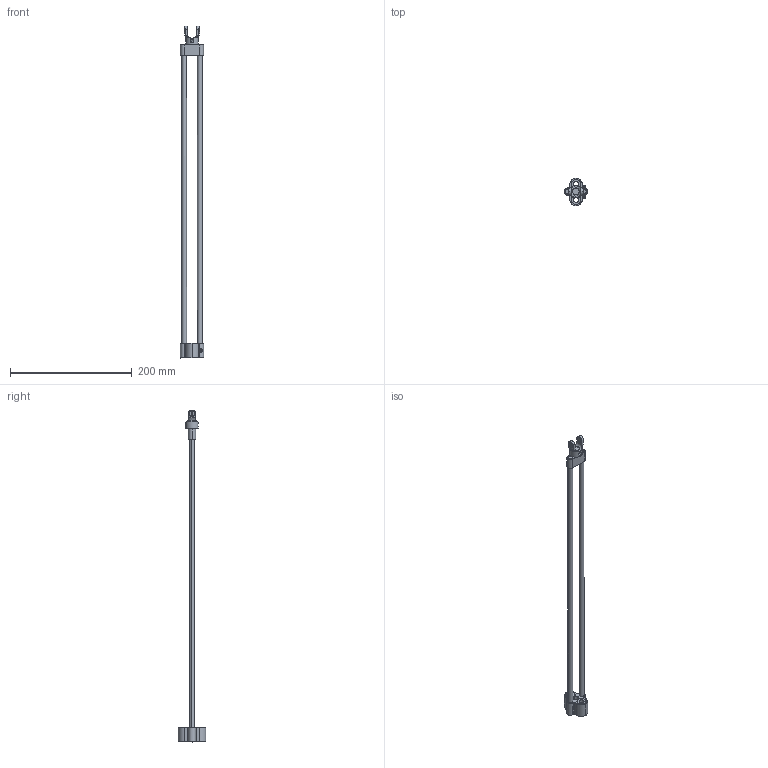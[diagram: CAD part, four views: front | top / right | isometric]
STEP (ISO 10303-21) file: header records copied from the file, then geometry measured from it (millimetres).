
FILE_DESCRIPTION (( 'STEP AP214' ), '1' );
FILE_NAME ('IRB360_X-1130-WDS-4D_rev03_MU_CAD.STEP', '2023-12-04T10:16:52', ( '' ), ( '' ), 'SwSTEP 2.0', 'SolidWorks 2022', '' );
FILE_SCHEMA (( 'AUTOMOTIVE_DESIGN' ));
Length unit declared in the file: millimetre
Products named in the file (1): IRB360_X-1130-WDS-4D_rev03_MU_CAD
Bounding box: 38.08 x 45 x 545.8 mm (x, y, z)
Volume: 80529.7 mm3; surface area: 45461 mm2
Topology: 11 solids, 11 shells, 255 faces, 588 edges, 352 vertices
Faces by surface type: cylinder 95, plane 69, cone 64, torus 21, sphere 4, bspline 2
Entity records: 8164 total; most frequent: CARTESIAN_POINT 2177, DIRECTION 1286, ORIENTED_EDGE 1164, EDGE_CURVE 582, AXIS2_PLACEMENT_3D 519, VERTEX_POINT 352, EDGE_LOOP 290, CIRCLE 265
